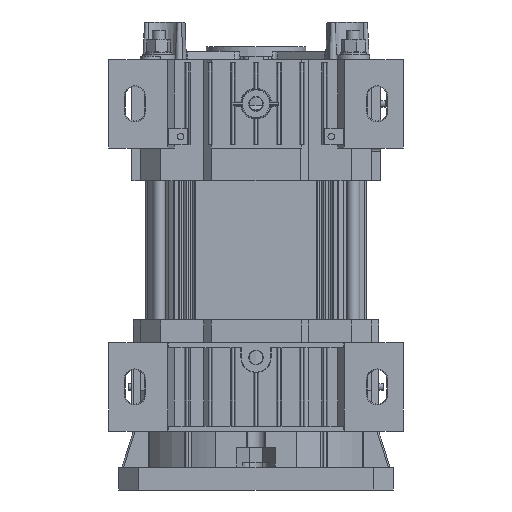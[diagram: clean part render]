
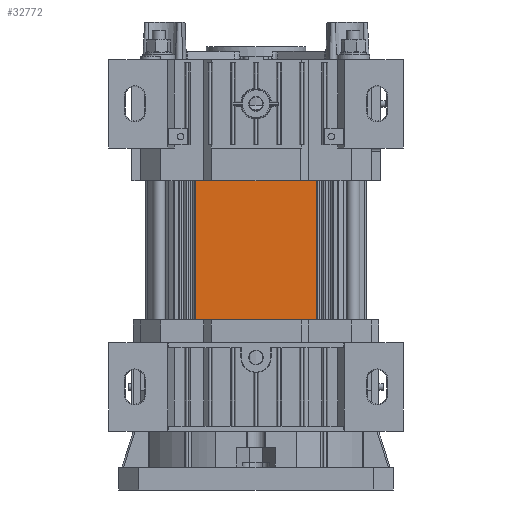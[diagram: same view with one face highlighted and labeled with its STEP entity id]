
A CAD part, front view. The second image highlights one B-rep face of the part: STEP entity #32772.
In plain terms, the highlighted planar face has unit normal (0, -1, 0).
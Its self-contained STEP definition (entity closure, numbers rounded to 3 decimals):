
#3594=LINE('',#57896,#6556);
#3830=LINE('',#58639,#6792);
#3831=LINE('',#58642,#6793);
#3832=LINE('',#58643,#6794);
#6556=VECTOR('',#44779,10.);
#6792=VECTOR('',#45533,10.);
#6793=VECTOR('',#45538,10.);
#6794=VECTOR('',#45539,10.);
#7785=PLANE('',#36113);
#9717=FACE_OUTER_BOUND('',#11658,.T.);
#11658=EDGE_LOOP('',(#30254,#30255,#30256,#30257));
#15998=VERTEX_POINT('',#57889);
#16001=VERTEX_POINT('',#57894);
#16248=VERTEX_POINT('',#58636);
#16249=VERTEX_POINT('',#58638);
#20639=EDGE_CURVE('',#16001,#15998,#3594,.T.);
#21010=EDGE_CURVE('',#16249,#16248,#3830,.T.);
#21012=EDGE_CURVE('',#16248,#15998,#3831,.T.);
#21013=EDGE_CURVE('',#16001,#16249,#3832,.T.);
#30254=ORIENTED_EDGE('',*,*,#21012,.T.);
#30255=ORIENTED_EDGE('',*,*,#20639,.F.);
#30256=ORIENTED_EDGE('',*,*,#21013,.T.);
#30257=ORIENTED_EDGE('',*,*,#21010,.T.);
#32772=ADVANCED_FACE('',(#9717),#7785,.T.);
#36113=AXIS2_PLACEMENT_3D('',#58641,#45536,#45537);
#44779=DIRECTION('',(0.,0.,1.));
#45533=DIRECTION('',(0.,0.,1.));
#45536=DIRECTION('center_axis',(0.,-1.,0.));
#45537=DIRECTION('ref_axis',(0.,0.,-1.));
#45538=DIRECTION('',(-1.,0.,0.));
#45539=DIRECTION('',(1.,0.,0.));
#57889=CARTESIAN_POINT('',(6506.45,-1976.3,95.));
#57894=CARTESIAN_POINT('',(6506.45,-1976.3,0.));
#57896=CARTESIAN_POINT('',(6506.45,-1976.3,0.));
#58636=CARTESIAN_POINT('',(6580.572,-1976.3,95.));
#58638=CARTESIAN_POINT('',(6580.572,-1976.3,0.));
#58639=CARTESIAN_POINT('',(6580.572,-1976.3,0.));
#58641=CARTESIAN_POINT('Origin',(6580.572,-1976.3,0.));
#58642=CARTESIAN_POINT('',(6506.45,-1976.3,95.));
#58643=CARTESIAN_POINT('',(6506.45,-1976.3,0.));
